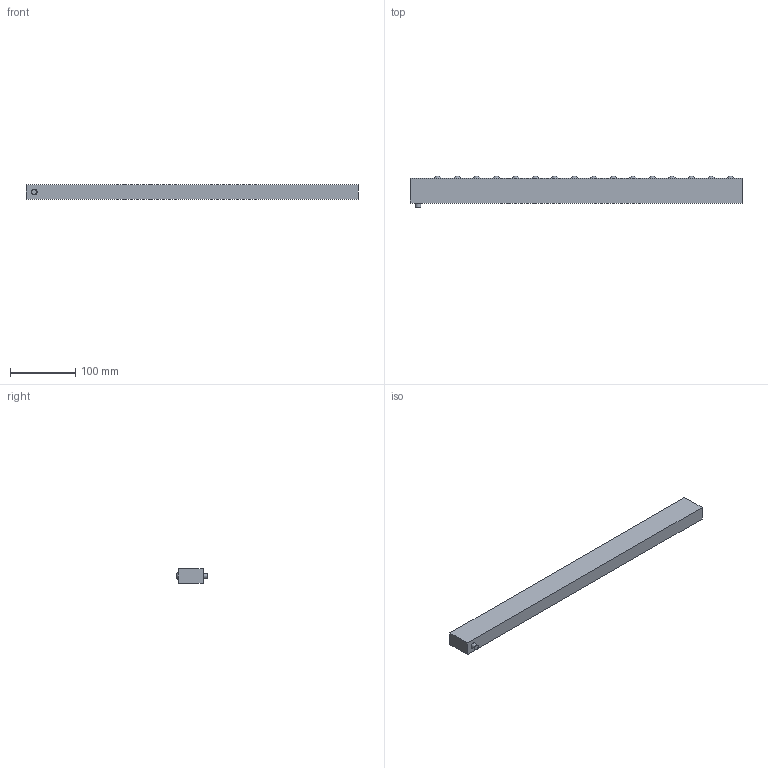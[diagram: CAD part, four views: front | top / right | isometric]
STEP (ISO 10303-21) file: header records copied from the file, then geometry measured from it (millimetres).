
FILE_DESCRIPTION(/* description */ (''),/* implementation_level */ '2;1');
FILE_NAME(/* name */ 'V:\Shrinkwrap\EMB\EMB - SHRINKWRAP\EMB22\EMB22-16_Shrinkwrap_1.stp',/* time_stamp */ '2022-08-12T10:47:59+02:00',/* author */ ('cw'),/* organization */ (''),/* preprocessor_version */ 'ST-DEVELOPER v17',/* originating_system */ 'Autodesk Inventor 2019',/* authorisation */ '');
FILE_SCHEMA (('AUTOMOTIVE_DESIGN { 1 0 10303 214 3 1 1 }'));
Length unit declared in the file: millimetre
Products named in the file (1): EMB22-16_Shrinkwrap_1
Bounding box: 510 x 48.46 x 21.8 mm (x, y, z)
Volume: 420644.4 mm3; surface area: 65347.1 mm2
Topology: 1 solids, 1 shells, 30 faces, 44 edges, 38 vertices
Faces by surface type: sphere 16, plane 10, cylinder 4
Full cylindrical faces by diameter (mm): 8 x1, 9 x1, 13 x1, 14 x1
Entity records: 784 total; most frequent: DIRECTION 130, CARTESIAN_POINT 111, ORIENTED_EDGE 84, AXIS2_PLACEMENT_3D 57, EDGE_LOOP 50, EDGE_CURVE 42, VERTEX_POINT 34, STYLED_ITEM 33
